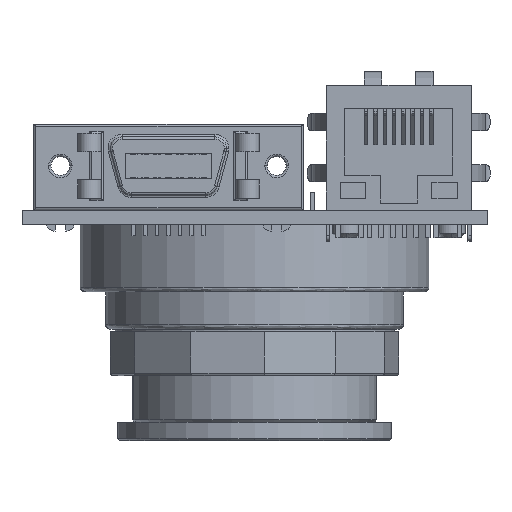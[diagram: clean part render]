
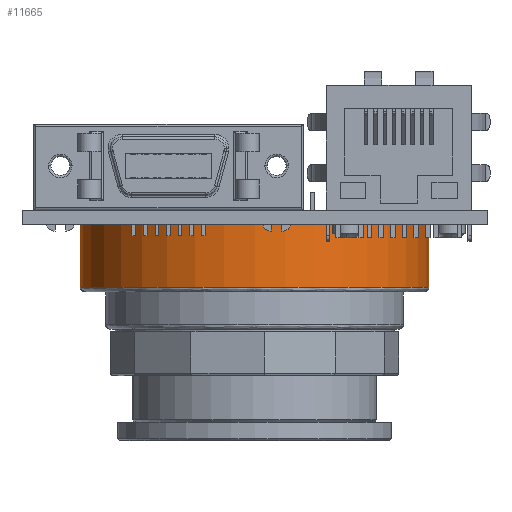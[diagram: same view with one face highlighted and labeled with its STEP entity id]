
A CAD part, front view. The second image highlights one B-rep face of the part: STEP entity #11665.
In plain terms, the highlighted cylindrical face has radius 19.05 mm (diameter 38.1 mm), a partial arc.
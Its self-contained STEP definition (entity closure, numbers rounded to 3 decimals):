
#907 = VERTEX_POINT ( 'NONE', #29322 ) ;
#2723 = EDGE_LOOP ( 'NONE', ( #31590, #18648, #54632, #20479 ) ) ;
#3069 = DIRECTION ( 'NONE',  ( -1., 0., 0. ) ) ;
#3438 = VECTOR ( 'NONE', #41904, 1000. ) ;
#3458 = AXIS2_PLACEMENT_3D ( 'NONE', #41885, #13447, #46614 ) ;
#5428 = CARTESIAN_POINT ( 'NONE',  ( 0., 0., 11.43 ) ) ;
#5638 = DIRECTION ( 'NONE',  ( 0., 0., -1. ) ) ;
#8186 = FACE_OUTER_BOUND ( 'NONE', #2723, .T. ) ;
#8394 = DIRECTION ( 'NONE',  ( 0., 0., -1. ) ) ;
#11665 = ADVANCED_FACE ( 'NONE', ( #8186 ), #38789, .T. ) ;
#13447 = DIRECTION ( 'NONE',  ( 0., 0., -1. ) ) ;
#13472 = CARTESIAN_POINT ( 'NONE',  ( -19.05, 0., 11.43 ) ) ;
#18648 = ORIENTED_EDGE ( 'NONE', *, *, #38549, .T. ) ;
#20479 = ORIENTED_EDGE ( 'NONE', *, *, #34615, .T. ) ;
#23203 = DIRECTION ( 'NONE',  ( 0., 0., 1. ) ) ;
#27723 = AXIS2_PLACEMENT_3D ( 'NONE', #51359, #23203, #55992 ) ;
#29322 = CARTESIAN_POINT ( 'NONE',  ( -19.05, 0., 0. ) ) ;
#29982 = AXIS2_PLACEMENT_3D ( 'NONE', #5428, #5638, #3069 ) ;
#31590 = ORIENTED_EDGE ( 'NONE', *, *, #51910, .F. ) ;
#34615 = EDGE_CURVE ( 'NONE', #907, #35703, #49225, .T. ) ;
#35703 = VERTEX_POINT ( 'NONE', #59183 ) ;
#38549 = EDGE_CURVE ( 'NONE', #42247, #44691, #56466, .T. ) ;
#38789 = CYLINDRICAL_SURFACE ( 'NONE', #29982, 19.05 ) ;
#41707 = CARTESIAN_POINT ( 'NONE',  ( 19.05, 0., 11.43 ) ) ;
#41885 = CARTESIAN_POINT ( 'NONE',  ( 0., 0., 6.858 ) ) ;
#41904 = DIRECTION ( 'NONE',  ( 0., 0., -1. ) ) ;
#42247 = VERTEX_POINT ( 'NONE', #53435 ) ;
#43811 = EDGE_CURVE ( 'NONE', #44691, #907, #52434, .T. ) ;
#44691 = VERTEX_POINT ( 'NONE', #49786 ) ;
#46078 = VECTOR ( 'NONE', #8394, 1000. ) ;
#46614 = DIRECTION ( 'NONE',  ( -1., 0., 0. ) ) ;
#49225 = CIRCLE ( 'NONE', #27723, 19.05 ) ;
#49786 = CARTESIAN_POINT ( 'NONE',  ( -19.05, 0., 6.858 ) ) ;
#51359 = CARTESIAN_POINT ( 'NONE',  ( 0., 0., 0. ) ) ;
#51910 = EDGE_CURVE ( 'NONE', #42247, #35703, #59635, .T. ) ;
#52434 = LINE ( 'NONE', #13472, #3438 ) ;
#53435 = CARTESIAN_POINT ( 'NONE',  ( 19.05, 0., 6.858 ) ) ;
#54632 = ORIENTED_EDGE ( 'NONE', *, *, #43811, .T. ) ;
#55992 = DIRECTION ( 'NONE',  ( -1., 0., 0. ) ) ;
#56466 = CIRCLE ( 'NONE', #3458, 19.05 ) ;
#59183 = CARTESIAN_POINT ( 'NONE',  ( 19.05, 0., 0. ) ) ;
#59635 = LINE ( 'NONE', #41707, #46078 ) ;
